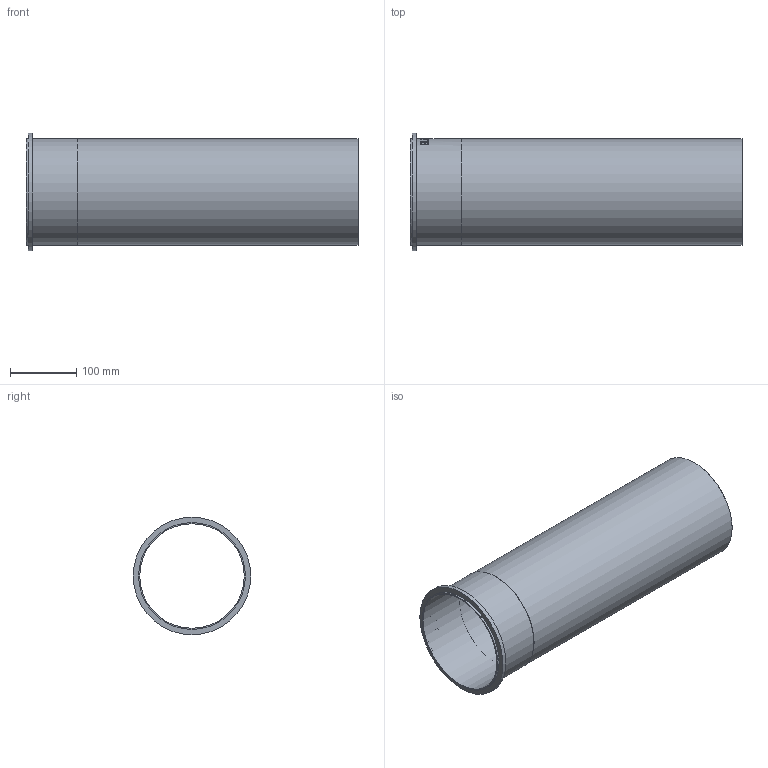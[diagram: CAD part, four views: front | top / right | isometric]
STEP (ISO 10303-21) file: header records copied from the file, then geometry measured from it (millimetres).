
FILE_DESCRIPTION((''),'2;1');
FILE_NAME('I:\WATTS\3D_CAD\3D_CAD_Models\Blucher_Drains\P_StraightPipe\WebsiteFiles\3D\STEP\P6-1.6-316.stp','2009-12-02T16:02:41',('menesek'),(''),'Autodesk Inventor 2010','Autodesk Inventor 2010','');
FILE_SCHEMA(('AUTOMOTIVE_DESIGN { 1 0 10303 214 1 1 1 1 }'));
Length unit declared in the file: inch
Products named in the file (1): P6-1.6-316
Bounding box: 500 x 177.04 x 177.04 mm (x, y, z)
Volume: 363369.3 mm3; surface area: 509016.7 mm2
Topology: 1 solids, 1 shells, 109 faces, 285 edges, 190 vertices
Faces by surface type: plane 59, bspline 34, cylinder 16
Full cylindrical faces by diameter (mm): 157.226 x1, 159.766 x1, 160.782 x2, 177.038 x1
Entity records: 13936 total; most frequent: CARTESIAN_POINT 11558, ORIENTED_EDGE 548, DIRECTION 356, EDGE_CURVE 274, VERTEX_POINT 186, EDGE_LOOP 128, AXIS2_PLACEMENT_3D 120, VECTOR 116
